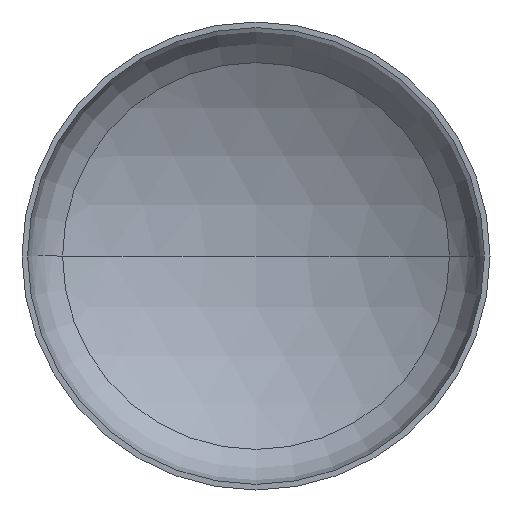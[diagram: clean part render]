
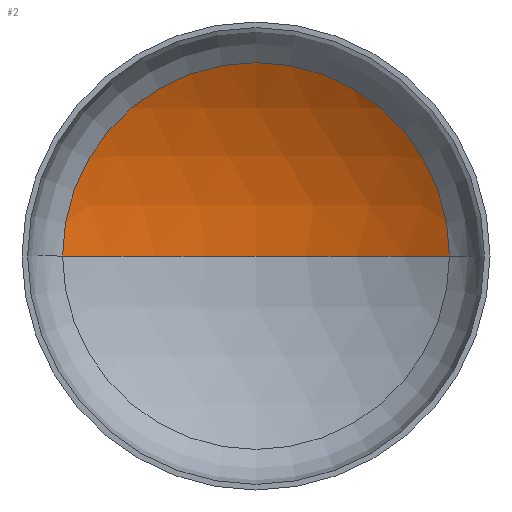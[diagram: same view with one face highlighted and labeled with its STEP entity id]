
A CAD part, front view. The second image highlights one B-rep face of the part: STEP entity #2.
In plain terms, the highlighted spherical face has radius 2720 mm.
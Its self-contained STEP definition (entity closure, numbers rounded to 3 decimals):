
#2 = ADVANCED_FACE ( 'NONE', ( #218 ), #369, .F. ) ;
#18 = AXIS2_PLACEMENT_3D ( 'NONE', #376, #22, #21 ) ;
#21 = DIRECTION ( 'NONE',  ( 1., 0., 0. ) ) ;
#22 = DIRECTION ( 'NONE',  ( 0., 0., 1. ) ) ;
#23 = AXIS2_PLACEMENT_3D ( 'NONE', #219, #384, #246 ) ;
#24 = AXIS2_PLACEMENT_3D ( 'NONE', #201, #202, #165 ) ;
#33 = ORIENTED_EDGE ( 'NONE', *, *, #68, .T. ) ;
#47 = AXIS2_PLACEMENT_3D ( 'NONE', #244, #280, #281 ) ;
#67 = EDGE_CURVE ( 'NONE', #96, #119, #354, .T. ) ;
#68 = EDGE_CURVE ( 'NONE', #157, #96, #289, .T. ) ;
#69 = EDGE_CURVE ( 'NONE', #157, #119, #128, .T. ) ;
#75 = ORIENTED_EDGE ( 'NONE', *, *, #69, .F. ) ;
#96 = VERTEX_POINT ( 'NONE', #171 ) ;
#119 = VERTEX_POINT ( 'NONE', #194 ) ;
#128 = CIRCLE ( 'NONE', #18, 2720. ) ;
#157 = VERTEX_POINT ( 'NONE', #207 ) ;
#165 = DIRECTION ( 'NONE',  ( 1., 0., 0. ) ) ;
#171 = CARTESIAN_POINT ( 'NONE',  ( 1405.23, 579.51, 0. ) ) ;
#194 = CARTESIAN_POINT ( 'NONE',  ( -1405.23, 579.51, 0. ) ) ;
#198 = EDGE_LOOP ( 'NONE', ( #75, #33, #199 ) ) ;
#199 = ORIENTED_EDGE ( 'NONE', *, *, #67, .T. ) ;
#201 = CARTESIAN_POINT ( 'NONE',  ( 0., 579.51, 0. ) ) ;
#202 = DIRECTION ( 'NONE',  ( 0., -1., 0. ) ) ;
#207 = CARTESIAN_POINT ( 'NONE',  ( 0., 970.62, 0. ) ) ;
#218 = FACE_OUTER_BOUND ( 'NONE', #198, .T. ) ;
#219 = CARTESIAN_POINT ( 'NONE',  ( 0., -1749.38, 0. ) ) ;
#244 = CARTESIAN_POINT ( 'NONE',  ( 0., -1749.38, 0. ) ) ;
#246 = DIRECTION ( 'NONE',  ( -1., 0., 0. ) ) ;
#280 = DIRECTION ( 'NONE',  ( 0., 0., -1. ) ) ;
#281 = DIRECTION ( 'NONE',  ( -1., 0., 0. ) ) ;
#289 = CIRCLE ( 'NONE', #23, 2720. ) ;
#354 = CIRCLE ( 'NONE', #24, 1405.23 ) ;
#369 = SPHERICAL_SURFACE ( 'NONE', #47, 2720. ) ;
#376 = CARTESIAN_POINT ( 'NONE',  ( 0., -1749.38, 0. ) ) ;
#384 = DIRECTION ( 'NONE',  ( 0., 0., -1. ) ) ;
